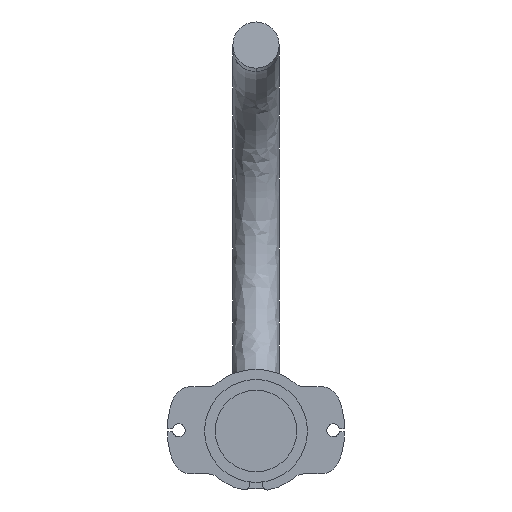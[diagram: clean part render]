
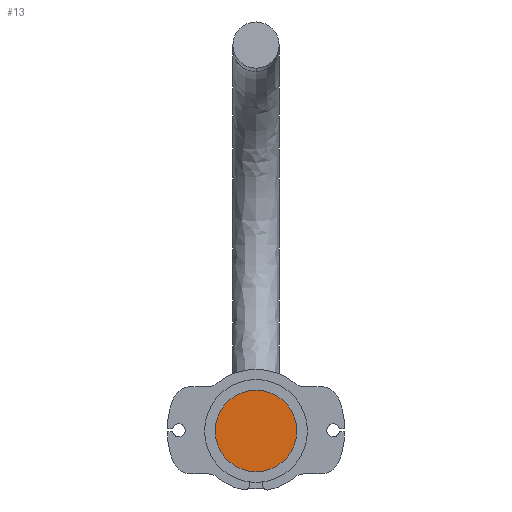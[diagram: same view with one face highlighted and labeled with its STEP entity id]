
A CAD part, front view. The second image highlights one B-rep face of the part: STEP entity #13.
In plain terms, the highlighted planar face has unit normal (0, -1, 0).
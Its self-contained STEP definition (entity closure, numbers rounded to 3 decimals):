
#13 = ADVANCED_FACE ( 'NONE', ( #2452 ), #4285, .T. ) ;
#177 = EDGE_CURVE ( 'NONE', #3743, #1657, #4481, .T. ) ;
#182 = DIRECTION ( 'NONE',  ( 0., -1., 0. ) ) ;
#371 = CARTESIAN_POINT ( 'NONE',  ( -23.175, -174.516, 121.619 ) ) ;
#1657 = VERTEX_POINT ( 'NONE', #4450 ) ;
#1713 = DIRECTION ( 'NONE',  ( 0., -1., 0. ) ) ;
#1965 = ORIENTED_EDGE ( 'NONE', *, *, #4164, .T. ) ;
#2056 = CIRCLE ( 'NONE', #2221, 15.825 ) ;
#2080 = DIRECTION ( 'NONE',  ( 0., 0., -1. ) ) ;
#2123 = ORIENTED_EDGE ( 'NONE', *, *, #177, .T. ) ;
#2176 = DIRECTION ( 'NONE',  ( 0., 0., -1. ) ) ;
#2221 = AXIS2_PLACEMENT_3D ( 'NONE', #3864, #1713, #2080 ) ;
#2452 = FACE_OUTER_BOUND ( 'NONE', #4413, .T. ) ;
#2637 = AXIS2_PLACEMENT_3D ( 'NONE', #371, #4349, #2176 ) ;
#2931 = CARTESIAN_POINT ( 'NONE',  ( -23.175, -174.516, 137.444 ) ) ;
#3029 = AXIS2_PLACEMENT_3D ( 'NONE', #3485, #182, #3930 ) ;
#3485 = CARTESIAN_POINT ( 'NONE',  ( -7.35, -174.516, 121.619 ) ) ;
#3743 = VERTEX_POINT ( 'NONE', #2931 ) ;
#3864 = CARTESIAN_POINT ( 'NONE',  ( -23.175, -174.516, 121.619 ) ) ;
#3930 = DIRECTION ( 'NONE',  ( 0., 0., -1. ) ) ;
#4164 = EDGE_CURVE ( 'NONE', #1657, #3743, #2056, .T. ) ;
#4285 = PLANE ( 'NONE',  #3029 ) ;
#4349 = DIRECTION ( 'NONE',  ( 0., -1., 0. ) ) ;
#4413 = EDGE_LOOP ( 'NONE', ( #1965, #2123 ) ) ;
#4450 = CARTESIAN_POINT ( 'NONE',  ( -23.175, -174.516, 105.794 ) ) ;
#4481 = CIRCLE ( 'NONE', #2637, 15.825 ) ;
